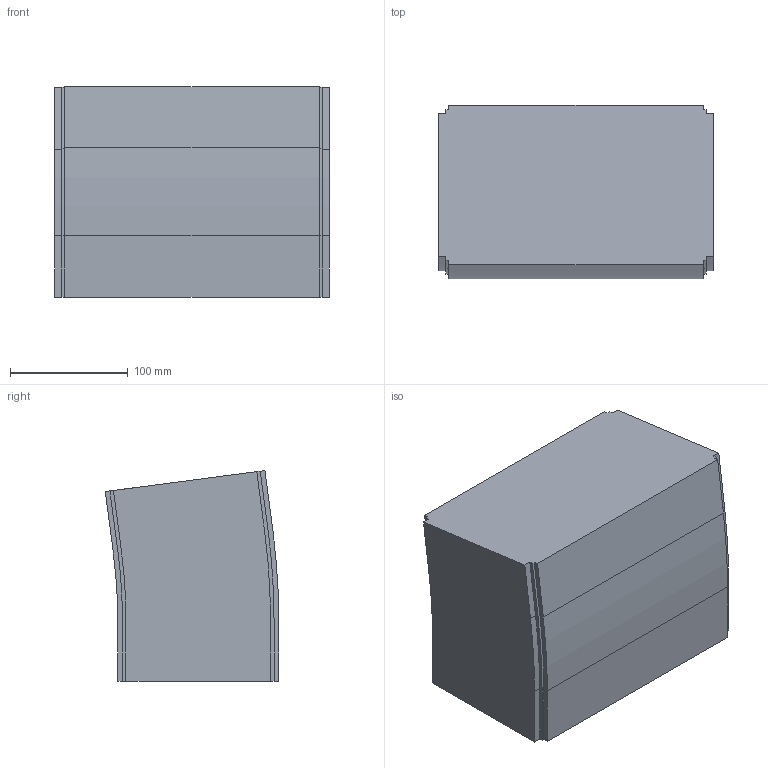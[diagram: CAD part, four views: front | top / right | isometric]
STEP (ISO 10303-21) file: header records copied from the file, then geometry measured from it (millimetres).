
FILE_DESCRIPTION (( 'STEP AP214' ), '1' );
FILE_NAME ('FS-MTC2-150-INOX verticaalbocht.230 7,5°.STEP', '2017-02-08T12:41:51', ( '' ), ( '' ), 'SwSTEP 2.0', 'SolidWorks 2016', '' );
FILE_SCHEMA (( 'AUTOMOTIVE_DESIGN' ));
Length unit declared in the file: millimetre
Products named in the file (1): FS-MTC2-150-INOX verticaalbocht.230 7,5°
Bounding box: 232.5 x 147.05 x 178.72 mm (x, y, z)
Volume: 5374530.8 mm3; surface area: 188854.9 mm2
Topology: 1 solids, 1 shells, 42 faces, 120 edges, 80 vertices
Faces by surface type: plane 32, cylinder 10
Entity records: 1398 total; most frequent: CARTESIAN_POINT 243, ORIENTED_EDGE 240, DIRECTION 226, EDGE_CURVE 120, VECTOR 100, LINE 100, VERTEX_POINT 80, AXIS2_PLACEMENT_3D 63
